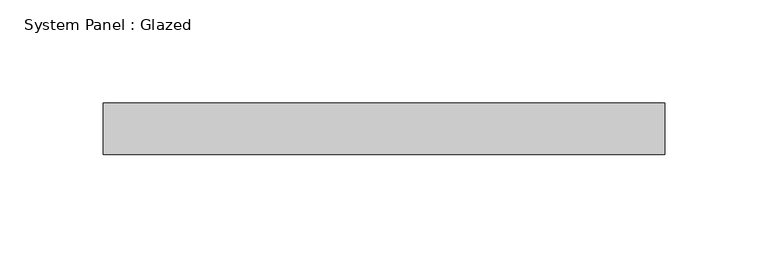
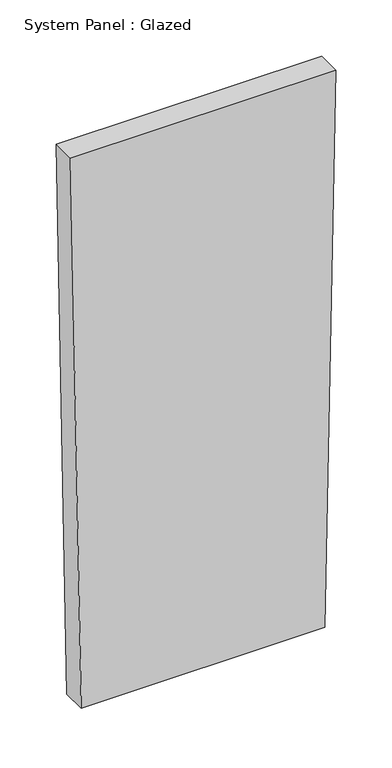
"""IFC4 building model written with IfcOpenShell, lengths in millimetres: plate geometry, System Panel : Glazed."""

from ifc_helpers import new_model, si_unit, frame, origin, place, context, project, spatial, polyline, outline, extrude, source, transform, mapped, element, save


def system_panel_glazed_a12274b9(model_context):
    return source(origin(), model_context, "Body", "SweptSolid", [
        extrude(outline(polyline([(0.0, -125.0509732), (0.0, 125.0509732), (599.9015656, 135.9188875), (599.9015656, -135.9188875), (0.0, -125.0509732)])), frame((0.0, 24.5, 0.0), z_axis=(0.0, 1.0, 0.0), x_axis=(0.0, 0.0, 1.0)), (0.0, 0.0, 1.0), 25.0),
    ])


if __name__ == "__main__":
    model = new_model("IFC4")
    model_context = context("Model", 3, world=origin())
    ifc_project = project(units=[si_unit("LENGTHUNIT", "METRE", prefix="MILLI")], contexts=[model_context])
    site = spatial("IfcSite", under=ifc_project)
    building = spatial("IfcBuilding", under=site)
    placement = place(None, origin())
    system_panel_glazed_shape = system_panel_glazed_a12274b9(model_context)
    element("IfcPlate", 1, ObjectType="System Panel : Glazed", at=placement, inside=building, context=model_context, shape_type="MappedRepresentation", body=[
        mapped(system_panel_glazed_shape, transform((0.0, 0.0, 0.0), x_axis=(1.0, 0.0, 0.0), y_axis=(0.0, 1.0, 0.0), z_axis=(0.0, 0.0, 1.0))),
    ])
    save(model, "model.ifc")
